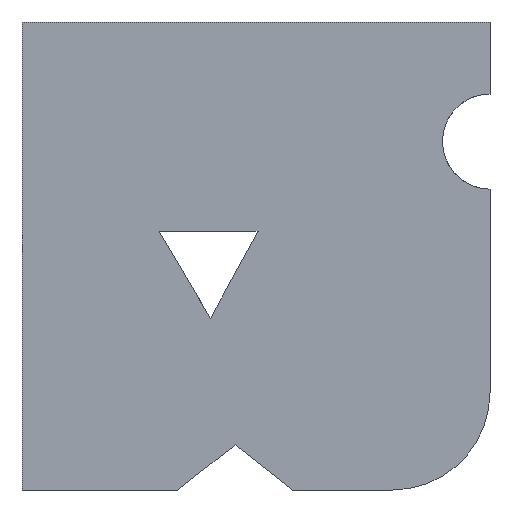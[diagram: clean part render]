
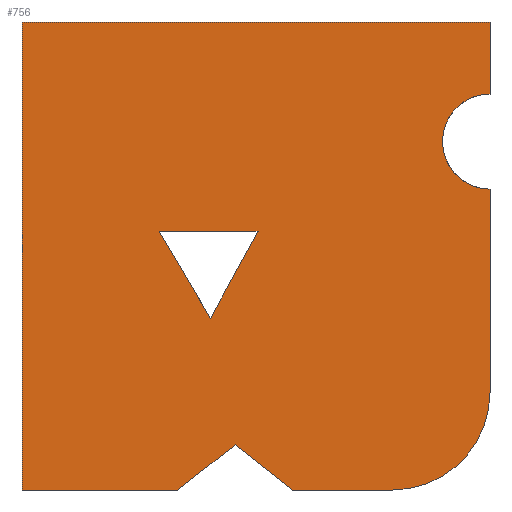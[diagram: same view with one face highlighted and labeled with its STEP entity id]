
A CAD part, left-side view. The second image highlights one B-rep face of the part: STEP entity #756.
In plain terms, the highlighted planar face has unit normal (-1, 0, 0).
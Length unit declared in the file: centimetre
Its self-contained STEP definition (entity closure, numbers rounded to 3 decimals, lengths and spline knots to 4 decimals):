
#5 = VECTOR ( 'NONE', #529, 100. ) ;
#14 = CARTESIAN_POINT ( 'NONE',  ( 0., 1000., 1000. ) ) ;
#15 = DIRECTION ( 'NONE',  ( 0., -1., 0. ) ) ;
#24 = EDGE_CURVE ( 'NONE', #491, #206, #81, .T. ) ;
#26 = CARTESIAN_POINT ( 'NONE',  ( 0., 0., 1000. ) ) ;
#30 = CARTESIAN_POINT ( 'NONE',  ( 0., 0., 1000. ) ) ;
#31 = VECTOR ( 'NONE', #331, 100. ) ;
#35 = CARTESIAN_POINT ( 'NONE',  ( 0., 1000., 1000. ) ) ;
#36 = VERTEX_POINT ( 'NONE', #233 ) ;
#41 = VERTEX_POINT ( 'NONE', #152 ) ;
#49 = VERTEX_POINT ( 'NONE', #898 ) ;
#53 = ORIENTED_EDGE ( 'NONE', *, *, #960, .F. ) ;
#79 = DIRECTION ( 'NONE',  ( 0., 0., -1. ) ) ;
#81 = LINE ( 'NONE', #446, #679 ) ;
#82 = EDGE_CURVE ( 'NONE', #36, #774, #752, .T. ) ;
#101 = ORIENTED_EDGE ( 'NONE', *, *, #82, .F. ) ;
#103 = LINE ( 'NONE', #327, #31 ) ;
#110 = ORIENTED_EDGE ( 'NONE', *, *, #318, .F. ) ;
#123 = VECTOR ( 'NONE', #286, 100. ) ;
#128 = VERTEX_POINT ( 'NONE', #531 ) ;
#131 = ORIENTED_EDGE ( 'NONE', *, *, #24, .F. ) ;
#152 = CARTESIAN_POINT ( 'NONE',  ( 0., 208.6645, 0. ) ) ;
#154 = FACE_OUTER_BOUND ( 'NONE', #649, .T. ) ;
#159 = DIRECTION ( 'NONE',  ( 0., 0., -1. ) ) ;
#170 = CARTESIAN_POINT ( 'NONE',  ( 0., 0., 744.5421 ) ) ;
#175 = VECTOR ( 'NONE', #553, 100. ) ;
#204 = CARTESIAN_POINT ( 'NONE',  ( 0., 495.6934, 552.427 ) ) ;
#206 = VERTEX_POINT ( 'NONE', #685 ) ;
#212 = VERTEX_POINT ( 'NONE', #757 ) ;
#221 = EDGE_CURVE ( 'NONE', #807, #212, #524, .T. ) ;
#229 = CARTESIAN_POINT ( 'NONE',  ( 0., 0., 1000. ) ) ;
#233 = CARTESIAN_POINT ( 'NONE',  ( 0., 597.3312, 367.1719 ) ) ;
#240 = AXIS2_PLACEMENT_3D ( 'NONE', #170, #246, #323 ) ;
#246 = DIRECTION ( 'NONE',  ( 1., 0., 0. ) ) ;
#252 = CARTESIAN_POINT ( 'NONE',  ( 0., 1000., 0. ) ) ;
#254 = AXIS2_PLACEMENT_3D ( 'NONE', #744, #602, #372 ) ;
#266 = VERTEX_POINT ( 'NONE', #26 ) ;
#279 = ORIENTED_EDGE ( 'NONE', *, *, #596, .T. ) ;
#286 = DIRECTION ( 'NONE',  ( 0., 0.785, -0.62 ) ) ;
#302 = DIRECTION ( 'NONE',  ( 0., -0.481, 0.877 ) ) ;
#305 = EDGE_CURVE ( 'NONE', #212, #128, #693, .T. ) ;
#311 = EDGE_CURVE ( 'NONE', #854, #857, #407, .T. ) ;
#314 = CARTESIAN_POINT ( 'NONE',  ( 0., 1000., 1000. ) ) ;
#318 = EDGE_CURVE ( 'NONE', #324, #36, #103, .T. ) ;
#323 = DIRECTION ( 'NONE',  ( 0., 0., -1. ) ) ;
#324 = VERTEX_POINT ( 'NONE', #921 ) ;
#327 = CARTESIAN_POINT ( 'NONE',  ( 0., 706.948, 552.427 ) ) ;
#331 = DIRECTION ( 'NONE',  ( 0., -0.509, -0.861 ) ) ;
#333 = EDGE_CURVE ( 'NONE', #807, #266, #392, .T. ) ;
#338 = DIRECTION ( 'NONE',  ( 0., -1., 0. ) ) ;
#369 = CARTESIAN_POINT ( 'NONE',  ( 0., 597.3312, 367.1719 ) ) ;
#372 = DIRECTION ( 'NONE',  ( 0., 0., -1. ) ) ;
#375 = EDGE_CURVE ( 'NONE', #854, #49, #538, .T. ) ;
#378 = FACE_BOUND ( 'NONE', #631, .T. ) ;
#392 = LINE ( 'NONE', #35, #763 ) ;
#394 = VECTOR ( 'NONE', #865, 100. ) ;
#399 = EDGE_CURVE ( 'NONE', #491, #41, #769, .T. ) ;
#402 = ORIENTED_EDGE ( 'NONE', *, *, #375, .T. ) ;
#407 = LINE ( 'NONE', #30, #474 ) ;
#408 = VECTOR ( 'NONE', #15, 100. ) ;
#410 = VECTOR ( 'NONE', #159, 100. ) ;
#411 = AXIS2_PLACEMENT_3D ( 'NONE', #314, #969, #79 ) ;
#413 = ORIENTED_EDGE ( 'NONE', *, *, #311, .F. ) ;
#420 = CARTESIAN_POINT ( 'NONE',  ( 0., 422.5984, 0. ) ) ;
#425 = LINE ( 'NONE', #204, #394 ) ;
#446 = CARTESIAN_POINT ( 'NONE',  ( 0., 422.5984, 0. ) ) ;
#462 = CARTESIAN_POINT ( 'NONE',  ( 0., 495.6934, 552.427 ) ) ;
#474 = VECTOR ( 'NONE', #852, 100. ) ;
#491 = VERTEX_POINT ( 'NONE', #420 ) ;
#524 = LINE ( 'NONE', #900, #410 ) ;
#529 = DIRECTION ( 'NONE',  ( 0., 0., -1. ) ) ;
#531 = CARTESIAN_POINT ( 'NONE',  ( 0., 666.8866, 0. ) ) ;
#538 = CIRCLE ( 'NONE', #240, 101.5816 ) ;
#540 = EDGE_CURVE ( 'NONE', #266, #49, #956, .T. ) ;
#553 = DIRECTION ( 'NONE',  ( 0., -1., 0. ) ) ;
#554 = ORIENTED_EDGE ( 'NONE', *, *, #540, .F. ) ;
#555 = ORIENTED_EDGE ( 'NONE', *, *, #943, .F. ) ;
#557 = CARTESIAN_POINT ( 'NONE',  ( 0., 1000., 0. ) ) ;
#561 = LINE ( 'NONE', #578, #123 ) ;
#578 = CARTESIAN_POINT ( 'NONE',  ( 0., 544.7425, 96.436 ) ) ;
#596 = EDGE_CURVE ( 'NONE', #41, #857, #957, .T. ) ;
#600 = DIRECTION ( 'NONE',  ( 0., 0.785, 0.62 ) ) ;
#602 = DIRECTION ( 'NONE',  ( -1., 0., 0. ) ) ;
#631 = EDGE_LOOP ( 'NONE', ( #101, #110, #53 ) ) ;
#649 = EDGE_LOOP ( 'NONE', ( #713, #555, #131, #729, #279, #413, #402, #554, #787, #959 ) ) ;
#679 = VECTOR ( 'NONE', #600, 100. ) ;
#685 = CARTESIAN_POINT ( 'NONE',  ( 0., 544.7425, 96.436 ) ) ;
#693 = LINE ( 'NONE', #557, #408 ) ;
#713 = ORIENTED_EDGE ( 'NONE', *, *, #305, .T. ) ;
#729 = ORIENTED_EDGE ( 'NONE', *, *, #399, .T. ) ;
#744 = CARTESIAN_POINT ( 'NONE',  ( 0., 208.6645, 208.6645 ) ) ;
#752 = LINE ( 'NONE', #369, #894 ) ;
#756 = ADVANCED_FACE ( 'NONE', ( #378, #154 ), #893, .F. ) ;
#757 = CARTESIAN_POINT ( 'NONE',  ( 0., 1000., 0. ) ) ;
#763 = VECTOR ( 'NONE', #338, 100. ) ;
#765 = CARTESIAN_POINT ( 'NONE',  ( 0., 0., 208.6645 ) ) ;
#769 = LINE ( 'NONE', #252, #175 ) ;
#774 = VERTEX_POINT ( 'NONE', #462 ) ;
#787 = ORIENTED_EDGE ( 'NONE', *, *, #333, .F. ) ;
#807 = VERTEX_POINT ( 'NONE', #14 ) ;
#852 = DIRECTION ( 'NONE',  ( 0., 0., -1. ) ) ;
#854 = VERTEX_POINT ( 'NONE', #907 ) ;
#857 = VERTEX_POINT ( 'NONE', #765 ) ;
#865 = DIRECTION ( 'NONE',  ( 0., 1., 0. ) ) ;
#893 = PLANE ( 'NONE',  #411 ) ;
#894 = VECTOR ( 'NONE', #302, 100. ) ;
#898 = CARTESIAN_POINT ( 'NONE',  ( 0., 0., 846.1237 ) ) ;
#900 = CARTESIAN_POINT ( 'NONE',  ( 0., 1000., 1000. ) ) ;
#907 = CARTESIAN_POINT ( 'NONE',  ( 0., 0., 642.9605 ) ) ;
#921 = CARTESIAN_POINT ( 'NONE',  ( 0., 706.948, 552.427 ) ) ;
#943 = EDGE_CURVE ( 'NONE', #206, #128, #561, .T. ) ;
#956 = LINE ( 'NONE', #229, #5 ) ;
#957 = CIRCLE ( 'NONE', #254, 208.6645 ) ;
#959 = ORIENTED_EDGE ( 'NONE', *, *, #221, .T. ) ;
#960 = EDGE_CURVE ( 'NONE', #774, #324, #425, .T. ) ;
#969 = DIRECTION ( 'NONE',  ( 1., 0., 0. ) ) ;
